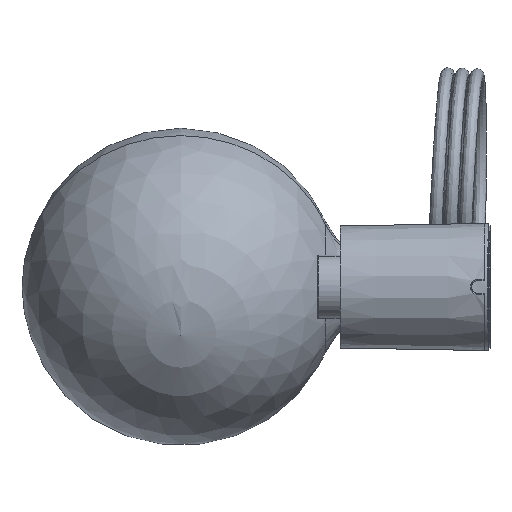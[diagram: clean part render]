
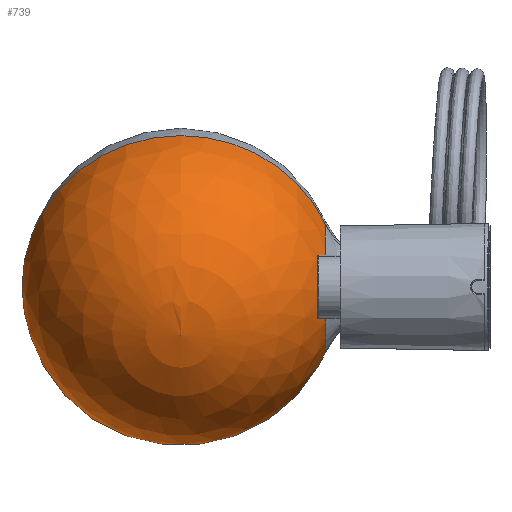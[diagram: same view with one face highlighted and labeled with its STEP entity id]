
A CAD part, left-side view. The second image highlights one B-rep face of the part: STEP entity #739.
In plain terms, the highlighted spherical face has radius 75 mm.
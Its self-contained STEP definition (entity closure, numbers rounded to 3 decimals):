
#44 = CIRCLE ( 'NONE', #3452, 31.132 ) ;
#61 = DIRECTION ( 'NONE',  ( 0.953, 0., 0.304 ) ) ;
#136 = CARTESIAN_POINT ( 'NONE',  ( 64.979, 271.349, 153.99 ) ) ;
#400 = VERTEX_POINT ( 'NONE', #2745 ) ;
#404 = DIRECTION ( 'NONE',  ( -0.953, 0., -0.304 ) ) ;
#605 = CARTESIAN_POINT ( 'NONE',  ( 64.979, 128.115, 153.99 ) ) ;
#615 = EDGE_CURVE ( 'NONE', #400, #626, #44, .T. ) ;
#626 = VERTEX_POINT ( 'NONE', #4738 ) ;
#739 = ADVANCED_FACE ( 'NONE', ( #3089 ), #1978, .T. ) ;
#795 = CARTESIAN_POINT ( 'NONE',  ( 64.979, 196.349, 153.99 ) ) ;
#957 = EDGE_CURVE ( 'NONE', #2822, #400, #3526, .T. ) ;
#1022 = ORIENTED_EDGE ( 'NONE', *, *, #1546, .T. ) ;
#1215 = DIRECTION ( 'NONE',  ( -0.304, 0., 0.953 ) ) ;
#1303 = DIRECTION ( 'NONE',  ( 0., -1., 0. ) ) ;
#1546 = EDGE_CURVE ( 'NONE', #2822, #626, #2233, .T. ) ;
#1742 = AXIS2_PLACEMENT_3D ( 'NONE', #1881, #404, #1215 ) ;
#1881 = CARTESIAN_POINT ( 'NONE',  ( 64.979, 196.349, 153.99 ) ) ;
#1978 = SPHERICAL_SURFACE ( 'NONE', #1742, 75. ) ;
#2148 = DIRECTION ( 'NONE',  ( 0.304, 0., -0.953 ) ) ;
#2233 = CIRCLE ( 'NONE', #3709, 75. ) ;
#2745 = CARTESIAN_POINT ( 'NONE',  ( 55.517, 128.115, 183.649 ) ) ;
#2789 = AXIS2_PLACEMENT_3D ( 'NONE', #795, #61, #3845 ) ;
#2822 = VERTEX_POINT ( 'NONE', #136 ) ;
#3089 = FACE_OUTER_BOUND ( 'NONE', #3643, .T. ) ;
#3452 = AXIS2_PLACEMENT_3D ( 'NONE', #605, #1303, #2148 ) ;
#3526 = CIRCLE ( 'NONE', #2789, 75. ) ;
#3643 = EDGE_LOOP ( 'NONE', ( #3975, #1022, #4704 ) ) ;
#3709 = AXIS2_PLACEMENT_3D ( 'NONE', #3785, #4551, #4168 ) ;
#3785 = CARTESIAN_POINT ( 'NONE',  ( 64.979, 196.349, 153.99 ) ) ;
#3845 = DIRECTION ( 'NONE',  ( 0.304, 0., -0.953 ) ) ;
#3975 = ORIENTED_EDGE ( 'NONE', *, *, #957, .F. ) ;
#4168 = DIRECTION ( 'NONE',  ( -0.304, 0., 0.953 ) ) ;
#4551 = DIRECTION ( 'NONE',  ( -0.953, 0., -0.304 ) ) ;
#4704 = ORIENTED_EDGE ( 'NONE', *, *, #615, .F. ) ;
#4738 = CARTESIAN_POINT ( 'NONE',  ( 74.441, 128.115, 124.331 ) ) ;
